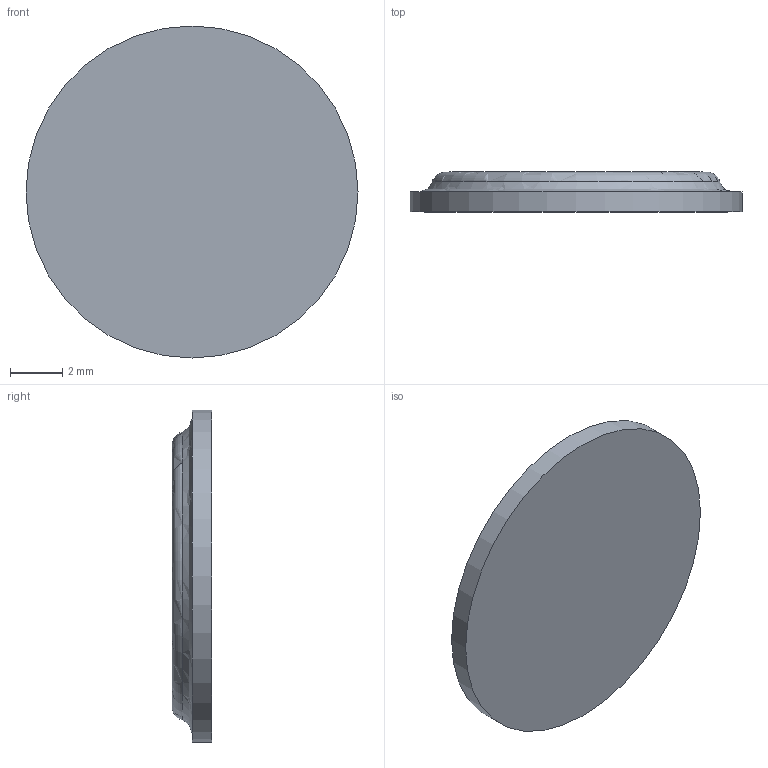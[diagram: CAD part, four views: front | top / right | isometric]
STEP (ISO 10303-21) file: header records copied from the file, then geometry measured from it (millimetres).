
FILE_DESCRIPTION(/* description */ (''),/* implementation_level */ '2;1');
FILE_NAME(/* name */ 'C:/Users/Mark/Downloads/STEP Files/BS05.step',/* time_stamp */ '2020-02-10T10:56:14-05:00',/* author */ (''),/* organization */ (''),/* preprocessor_version */ 'ST-DEVELOPER v18',/* originating_system */ 'Autodesk Translation Framework v8.12.0.6',/* authorisation */ '');
FILE_SCHEMA (('AUTOMOTIVE_DESIGN { 1 0 10303 214 3 1 1 }'));
Length unit declared in the file: inch
Products named in the file (1): BS05
Bounding box: 12.7 x 1.52 x 12.7 mm (x, y, z)
Volume: 169.1 mm3; surface area: 295.8 mm2
Topology: 1 solids, 1 shells, 6 faces, 10 edges, 7 vertices
Faces by surface type: plane 3, bspline 1, torus 1, cylinder 1
Full cylindrical faces by diameter (mm): 12.7 x1
Entity records: 251 total; most frequent: CARTESIAN_POINT 101, DIRECTION 25, ORIENTED_EDGE 20, AXIS2_PLACEMENT_3D 12, EDGE_CURVE 10, EDGE_LOOP 7, VERTEX_POINT 7, FACE_OUTER_BOUND 6
